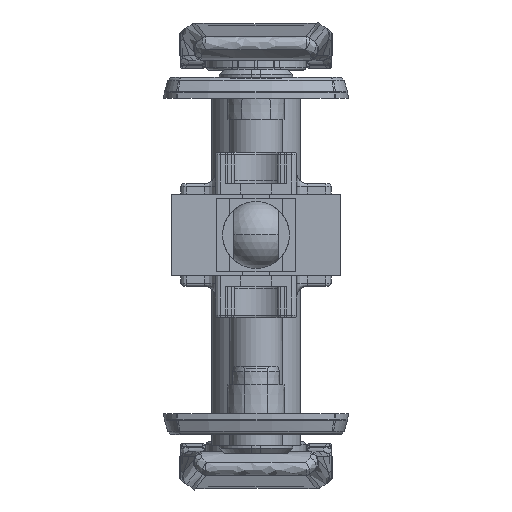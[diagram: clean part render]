
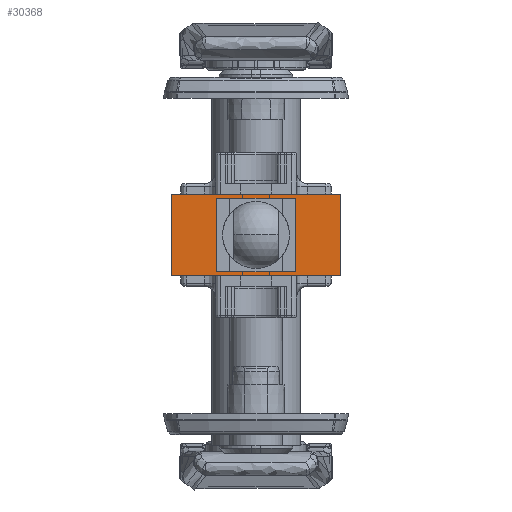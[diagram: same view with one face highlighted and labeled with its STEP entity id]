
A CAD part, front view. The second image highlights one B-rep face of the part: STEP entity #30368.
In plain terms, the highlighted planar face has unit normal (0, -1, 0).
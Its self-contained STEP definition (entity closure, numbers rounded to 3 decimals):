
#506 = VERTEX_POINT ( 'NONE', #48207 ) ;
#1447 = ORIENTED_EDGE ( 'NONE', *, *, #18152, .F. ) ;
#1703 = ORIENTED_EDGE ( 'NONE', *, *, #49441, .F. ) ;
#2412 = VECTOR ( 'NONE', #38845, 1000. ) ;
#2862 = LINE ( 'NONE', #44447, #13433 ) ;
#3012 = DIRECTION ( 'NONE',  ( 1., 0., 0. ) ) ;
#4175 = ORIENTED_EDGE ( 'NONE', *, *, #40624, .T. ) ;
#4409 = EDGE_CURVE ( 'NONE', #506, #48099, #27161, .T. ) ;
#5209 = EDGE_CURVE ( 'NONE', #41021, #40118, #47416, .T. ) ;
#5795 = ORIENTED_EDGE ( 'NONE', *, *, #9840, .F. ) ;
#5984 = LINE ( 'NONE', #43801, #40990 ) ;
#8020 = ORIENTED_EDGE ( 'NONE', *, *, #43481, .F. ) ;
#8094 = EDGE_LOOP ( 'NONE', ( #1447, #8020, #30428, #29675 ) ) ;
#8690 = DIRECTION ( 'NONE',  ( 0., 0., 1. ) ) ;
#9840 = EDGE_CURVE ( 'NONE', #41021, #10607, #5984, .T. ) ;
#10607 = VERTEX_POINT ( 'NONE', #20175 ) ;
#10707 = CARTESIAN_POINT ( 'NONE',  ( -16., -199.25, 7.75 ) ) ;
#12954 = LINE ( 'NONE', #26072, #26648 ) ;
#13123 = CARTESIAN_POINT ( 'NONE',  ( -7., -199.25, -6.25 ) ) ;
#13433 = VECTOR ( 'NONE', #39595, 1000. ) ;
#13938 = VECTOR ( 'NONE', #24398, 1000. ) ;
#16457 = PLANE ( 'NONE',  #39000 ) ;
#16735 = CARTESIAN_POINT ( 'NONE',  ( -16., -199.25, -7.75 ) ) ;
#17781 = CARTESIAN_POINT ( 'NONE',  ( 7., -199.25, 6.25 ) ) ;
#18152 = EDGE_CURVE ( 'NONE', #30341, #506, #28661, .T. ) ;
#19102 = DIRECTION ( 'NONE',  ( 1., 0., 0. ) ) ;
#19261 = LINE ( 'NONE', #20261, #2412 ) ;
#19779 = EDGE_CURVE ( 'NONE', #48099, #24337, #27995, .T. ) ;
#19992 = CARTESIAN_POINT ( 'NONE',  ( 7., -199.25, -6.25 ) ) ;
#20175 = CARTESIAN_POINT ( 'NONE',  ( 16., -199.25, 7.75 ) ) ;
#20261 = CARTESIAN_POINT ( 'NONE',  ( 7., -199.25, 6.25 ) ) ;
#20985 = DIRECTION ( 'NONE',  ( 0., 0., -1. ) ) ;
#21282 = CARTESIAN_POINT ( 'NONE',  ( -7., -199.25, 6.25 ) ) ;
#24337 = VERTEX_POINT ( 'NONE', #17781 ) ;
#24398 = DIRECTION ( 'NONE',  ( 0., 0., -1. ) ) ;
#25569 = VECTOR ( 'NONE', #27030, 1000. ) ;
#26072 = CARTESIAN_POINT ( 'NONE',  ( 16., -199.25, 7.75 ) ) ;
#26648 = VECTOR ( 'NONE', #20985, 1000. ) ;
#27030 = DIRECTION ( 'NONE',  ( 0., 0., -1. ) ) ;
#27161 = LINE ( 'NONE', #51287, #42577 ) ;
#27995 = LINE ( 'NONE', #36288, #37888 ) ;
#28661 = LINE ( 'NONE', #13123, #13938 ) ;
#28773 = CARTESIAN_POINT ( 'NONE',  ( -16., -199.25, 7.75 ) ) ;
#29045 = DIRECTION ( 'NONE',  ( 0., 1., 0. ) ) ;
#29675 = ORIENTED_EDGE ( 'NONE', *, *, #4409, .F. ) ;
#29842 = FACE_BOUND ( 'NONE', #8094, .T. ) ;
#30341 = VERTEX_POINT ( 'NONE', #21282 ) ;
#30368 = ADVANCED_FACE ( 'NONE', ( #29842, #38158 ), #16457, .F. ) ;
#30428 = ORIENTED_EDGE ( 'NONE', *, *, #19779, .F. ) ;
#30945 = CARTESIAN_POINT ( 'NONE',  ( -16., -199.25, 7.75 ) ) ;
#36288 = CARTESIAN_POINT ( 'NONE',  ( 7., -199.25, 6.25 ) ) ;
#37888 = VECTOR ( 'NONE', #52938, 1000. ) ;
#38158 = FACE_OUTER_BOUND ( 'NONE', #42558, .T. ) ;
#38845 = DIRECTION ( 'NONE',  ( -1., 0., 0. ) ) ;
#39000 = AXIS2_PLACEMENT_3D ( 'NONE', #28773, #29045, #8690 ) ;
#39595 = DIRECTION ( 'NONE',  ( 1., 0., 0. ) ) ;
#40118 = VERTEX_POINT ( 'NONE', #16735 ) ;
#40471 = VERTEX_POINT ( 'NONE', #46609 ) ;
#40624 = EDGE_CURVE ( 'NONE', #40118, #40471, #2862, .T. ) ;
#40850 = ORIENTED_EDGE ( 'NONE', *, *, #5209, .T. ) ;
#40990 = VECTOR ( 'NONE', #3012, 1000. ) ;
#41021 = VERTEX_POINT ( 'NONE', #30945 ) ;
#42558 = EDGE_LOOP ( 'NONE', ( #4175, #1703, #5795, #40850 ) ) ;
#42577 = VECTOR ( 'NONE', #19102, 1000. ) ;
#43481 = EDGE_CURVE ( 'NONE', #24337, #30341, #19261, .T. ) ;
#43801 = CARTESIAN_POINT ( 'NONE',  ( -16., -199.25, 7.75 ) ) ;
#44447 = CARTESIAN_POINT ( 'NONE',  ( -16., -199.25, -7.75 ) ) ;
#46609 = CARTESIAN_POINT ( 'NONE',  ( 16., -199.25, -7.75 ) ) ;
#47416 = LINE ( 'NONE', #10707, #25569 ) ;
#48099 = VERTEX_POINT ( 'NONE', #19992 ) ;
#48207 = CARTESIAN_POINT ( 'NONE',  ( -7., -199.25, -6.25 ) ) ;
#49441 = EDGE_CURVE ( 'NONE', #10607, #40471, #12954, .T. ) ;
#51287 = CARTESIAN_POINT ( 'NONE',  ( -7., -199.25, -6.25 ) ) ;
#52938 = DIRECTION ( 'NONE',  ( 0., 0., 1. ) ) ;
